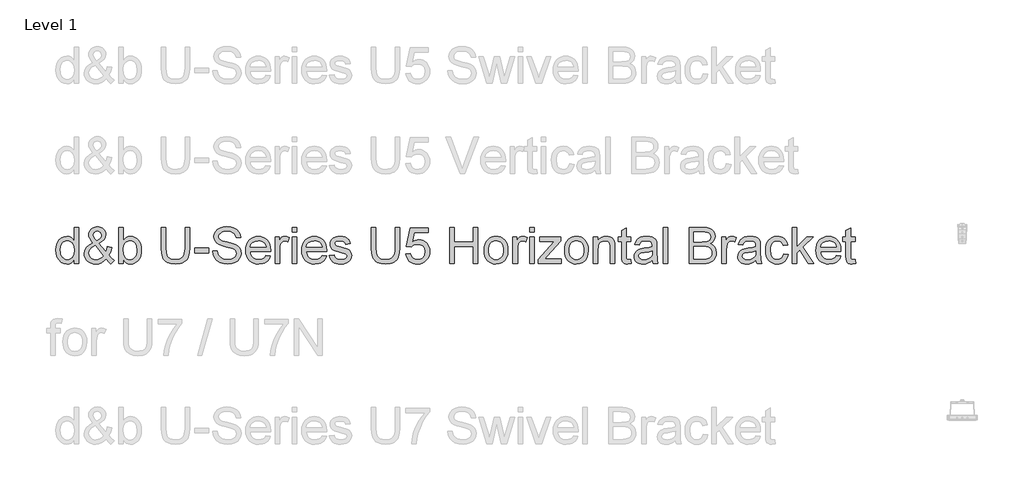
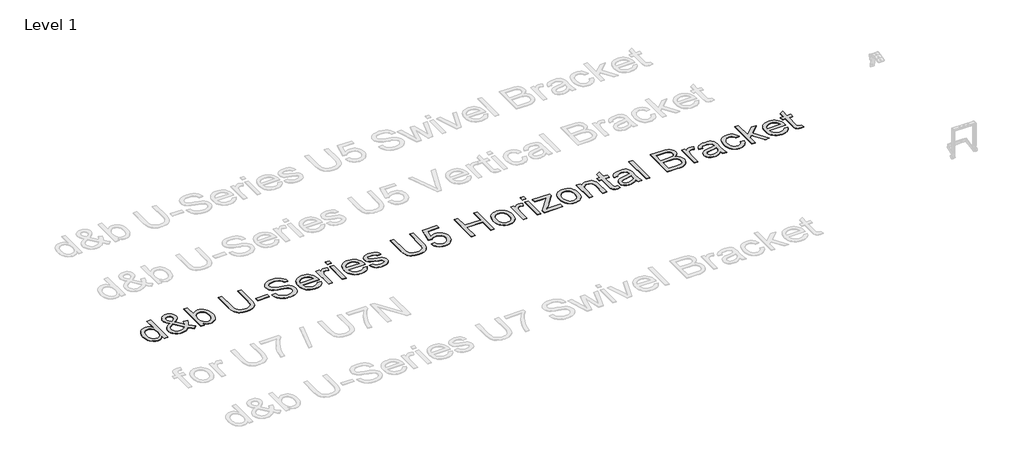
# One storey, part 6 of 29: 1 proxy.
"""IFC4 building model written with IfcOpenShell, lengths in millimetres."""

from ifc_helpers import new_model, si_unit, origin, origin_with_axes, place, context, project, spatial, polyline, outline, extrude, element, save

model = new_model("IFC4")

# Units and contexts
model_context = context("Model", 3, world=origin())
ifc_project = project(units=[si_unit("LENGTHUNIT", "METRE", prefix="MILLI")], contexts=[model_context])

# Site, building, storey
site = spatial("IfcSite", under=ifc_project)
building = spatial("IfcBuilding", under=site)
storey = spatial("IfcBuildingStorey", under=building, Name="Level 1", Elevation=0.0)

# Proxy
placement = place(None, origin())
element("IfcBuildingElementProxy", 1, Name="400mm Arial", ObjectType="400mm Arial", at=placement, inside=storey, context=model_context, shape_type="SweptSolid", body=[
    extrude(outline(polyline([(-20788.4119982, -5835.6363385), (-20788.4119982, -5788.2531375), (-20803.4399777, -5811.7301402), (-20821.6440051, -5828.4994278), (-20843.0240804, -5838.5610004), (-20867.5802036, -5841.9148579), (-20900.051921, -5837.0588156), (-20929.7767862, -5822.4906885), (-20954.9399147, -5799.2282837), (-20973.7264219, -5768.2894079), (-20985.4250694, -5730.9248599), (-20989.3246185, -5688.3854386), (-20985.7316377, -5646.3733147), (-20974.9526952, -5608.4324183), (-20957.0000539, -5576.7209903), (-20931.8859763, -5553.3972718), (-20901.5111863, -5539.049874), (-20867.7764073, -5534.2674081), (-20843.20189, -5537.6887106), (-20821.4723268, -5547.9526183), (-20803.0537016, -5563.6857049), (-20788.4119982, -5583.5145445), (-20788.4119982, -5433.8110979), (-20738.1838431, -5433.8110979), (-20738.1838431, -5835.6363385), (-20788.4119982, -5835.6363385)]), holes=[polyline([(-20939.0964634, -5688.1892348), (-20937.6801177, -5712.5460886), (-20933.4310807, -5733.6226612), (-20926.3493523, -5751.4189528), (-20916.4349325, -5765.9349632), (-20891.7377879, -5785.2487679), (-20877.8625053, -5790.0772191), (-20862.9694159, -5791.6867028), (-20848.0058157, -5790.1507955), (-20834.2133066, -5785.5430735), (-20810.1415614, -5767.1121855), (-20800.6348775, -5753.2031804), (-20793.844389, -5736.0506824), (-20788.4119982, -5692.0152076), (-20793.9424909, -5643.8717172), (-20800.8556067, -5625.336596), (-20810.5339688, -5610.4925575), (-20822.235682, -5599.1188724), (-20835.2188507, -5590.9948117), (-20849.4834751, -5586.1203753), (-20865.0295551, -5584.4955631), (-20880.2169501, -5586.0559959), (-20894.0922327, -5590.7372943), (-20906.6554028, -5598.5394583), (-20917.9064605, -5609.4624879), (-20927.1770868, -5623.7455063), (-20933.7989627, -5641.627637), (-20939.0964634, -5688.1892348)])]), origin_with_axes(), (0.0, 0.0, 1.0), 5.0),
    extrude(outline(polyline([(-20432.4003287, -5785.9967946), (-20457.9313392, -5810.4609473), (-20485.6696416, -5827.9353421), (-20515.664287, -5838.4199789), (-20547.9643262, -5841.9148579), (-20577.2722584, -5839.3274212), (-20603.3918801, -5831.5651111), (-20626.3231911, -5818.6279276), (-20646.0661915, -5800.5158707), (-20658.8991418, -5783.1457092), (-20668.0655348, -5764.7822662), (-20673.5653707, -5745.4255419), (-20675.3986493, -5725.0755362), (-20669.5002746, -5689.881492), (-20651.8051507, -5658.2681659), (-20622.3868538, -5630.2600833), (-20581.3189604, -5605.8817698), (-20603.2324646, -5577.5303307), (-20616.3903773, -5555.0650035), (-20622.975465, -5535.8860888), (-20625.1704942, -5517.3938872), (-20623.4414488, -5499.8397847), (-20618.2543127, -5483.4751673), (-20609.6090858, -5468.300035), (-20597.5057682, -5454.3143878), (-20582.784357, -5442.5973462), (-20566.2848495, -5434.2280308), (-20548.0072457, -5429.2064416), (-20527.9515456, -5427.5325785), (-20508.8032878, -5429.1328652), (-20491.4821772, -5433.9337252), (-20475.9882138, -5441.9351586), (-20462.3213977, -5453.1371654), (-20451.1623105, -5466.5832523), (-20443.1915339, -5481.3169262), (-20438.409068, -5497.3381871), (-20436.8149127, -5514.647035), (-20441.5360649, -5542.6305921), (-20455.6995218, -5568.5049591), (-20479.3052831, -5592.270136), (-20512.353349, -5613.9261227), (-20439.6598668, -5704.4741445), (-20427.2745063, -5678.5997775), (-20417.9793545, -5648.8503868), (-20367.7511994, -5659.7396939), (-20383.2022432, -5706.2645035), (-20403.2640747, -5742.4395664), (-20374.7164319, -5775.7451497), (-20342.6371219, -5803.2627229), (-20380.3082382, -5841.9148579), (-20405.9373505, -5818.4685121), (-20432.4003287, -5785.9967946)]), holes=[polyline([(-20537.7617322, -5582.2392202), (-20511.4949577, -5565.5741659), (-20496.4608468, -5551.091878), (-20489.3975125, -5537.0019976), (-20487.0430678, -5521.5141656), (-20490.1455392, -5503.9661944), (-20499.4529537, -5489.9744158), (-20513.4202068, -5480.8141542), (-20530.5021941, -5477.7607336), (-20547.9520634, -5480.7896287), (-20562.2381476, -5489.876314), (-20571.7662912, -5503.3285323), (-20574.9423391, -5519.4540264), (-20570.6258571, -5537.8481261), (-20557.578309, -5558.3023651), (-20537.7617322, -5582.2392202)]), polyline([(-20466.0492686, -5749.7972063), (-20555.7143735, -5637.8629779), (-20589.9641873, -5659.7151684), (-20610.8966728, -5679.9486782), (-20621.6020389, -5699.2747456), (-20625.1704942, -5718.4046094), (-20620.2899264, -5742.0962099), (-20605.648223, -5766.6707271), (-20594.8692805, -5777.6152165), (-20582.0547244, -5785.4327089), (-20567.2045545, -5790.1232043), (-20550.3187709, -5791.6867028), (-20527.5959264, -5788.7681723), (-20504.1618433, -5780.0125808), (-20482.7388484, -5766.6216762), (-20466.0492686, -5749.7972063)])]), origin_with_axes(), (0.0, 0.0, 1.0), 5.0),
    extrude(outline(polyline([(-20242.1808118, -5835.6363385), (-20292.4089668, -5835.6363385), (-20292.4089668, -5433.8110979), (-20242.1808118, -5433.8110979), (-20242.1808118, -5582.8278314), (-20225.6629102, -5561.5826462), (-20207.011293, -5546.4075139), (-20186.2259603, -5537.3024345), (-20163.306912, -5534.2674081), (-20137.432545, -5537.0019976), (-20112.9806551, -5545.2057661), (-20091.3491937, -5558.3636787), (-20073.9361126, -5575.9607008), (-20060.2876906, -5597.8251541), (-20049.9502065, -5623.7853602), (-20043.4386952, -5652.7621987), (-20041.2681915, -5683.676549), (-20043.5153373, -5719.3488398), (-20050.2567749, -5750.729174), (-20061.4925041, -5777.8175516), (-20077.2225251, -5800.6139726), (-20096.1040685, -5818.6831099), (-20116.7943651, -5831.5896366), (-20139.2934148, -5839.3335526), (-20163.6012176, -5841.9148579), (-20187.274424, -5838.5855258), (-20208.2620918, -5828.5975297), (-20226.5642211, -5811.9508694), (-20242.1808118, -5788.645545), (-20242.1808118, -5835.6363385)]), holes=[polyline([(-20242.1808118, -5686.0309938), (-20238.7472465, -5727.9204903), (-20228.4465506, -5756.2719294), (-20216.2757879, -5771.7658928), (-20202.1307252, -5782.8330095), (-20186.0113625, -5789.4732795), (-20167.9176997, -5791.6867028), (-20152.8958515, -5790.0557593), (-20138.9285984, -5785.1629288), (-20126.0159404, -5777.0082112), (-20114.1578774, -5765.5916066), (-20104.2434577, -5750.9437719), (-20097.1617293, -5733.0953637), (-20092.9126922, -5712.0463822), (-20091.4963465, -5687.7968274), (-20096.9287373, -5641.8361035), (-20103.7192258, -5624.0428776), (-20113.2259097, -5609.7077425), (-20124.6578427, -5598.677414), (-20137.2240785, -5590.798608), (-20150.9246172, -5586.0713243), (-20165.7594586, -5584.4955631), (-20180.7813068, -5586.1265066), (-20194.7485599, -5591.0193372), (-20207.6612179, -5599.1740547), (-20219.5192809, -5610.5906593), (-20229.4337006, -5625.0913413), (-20236.515429, -5642.498291), (-20240.7644661, -5662.8115085), (-20242.1808118, -5686.0309938)])]), origin_with_axes(), (0.0, 0.0, 1.0), 5.0),
    extrude(outline(polyline([(-19557.8221989, -5433.8110979), (-19507.5940438, -5433.8110979), (-19507.5940438, -5665.6258058), (-19511.0030836, -5719.9129256), (-19521.2302031, -5761.7165829), (-19529.4155775, -5778.6698116), (-19540.3355414, -5793.9675712), (-19570.3792376, -5819.5966835), (-19589.5213641, -5829.3608848), (-19611.4348683, -5836.3353143), (-19663.5760097, -5841.9148579), (-19714.576717, -5837.0588156), (-19755.3503048, -5822.4906885), (-19771.9049946, -5811.6902863), (-19785.9090359, -5798.7132489), (-19797.3624287, -5783.5595764), (-19806.2651729, -5766.2292688), (-19817.706303, -5722.6597778), (-19821.520013, -5665.6258058), (-19821.520013, -5433.8110979), (-19771.2918579, -5433.8110979), (-19771.2918579, -5663.8599722), (-19768.8147858, -5708.999093), (-19761.3835695, -5740.4284782), (-19747.9190885, -5762.1948295), (-19727.3422222, -5778.3448491), (-19700.5113621, -5788.3512394), (-19668.2848993, -5791.6867028), (-19640.6017791, -5790.0373652), (-19617.1983529, -5785.0893524), (-19598.0746205, -5776.8426643), (-19583.230582, -5765.297301), (-19572.1144144, -5749.0614423), (-19564.1742947, -5726.7432679), (-19559.4102228, -5698.3427779), (-19557.8221989, -5663.8599722), (-19557.8221989, -5433.8110979)])), origin_with_axes(), (0.0, 0.0, 1.0), 5.0),
    extrude(outline(polyline([(-19451.0873693, -5716.3444702), (-19451.0873693, -5666.1163151), (-19294.1243847, -5666.1163151), (-19294.1243847, -5716.3444702), (-19451.0873693, -5716.3444702)])), origin_with_axes(), (0.0, 0.0, 1.0), 5.0),
    extrude(outline(polyline([(-19250.174749, -5697.5089121), (-19199.946594, -5697.5089121), (-19194.1831094, -5725.3821046), (-19183.7597862, -5747.7861181), (-19167.499402, -5765.5670812), (-19144.2247344, -5779.5711224), (-19115.7751935, -5788.6578077), (-19083.9901891, -5791.6867028), (-19056.006632, -5789.3935717), (-19031.5056911, -5782.5141784), (-19011.6523261, -5771.6248713), (-18997.6114966, -5757.301999), (-18989.2605753, -5740.8576738), (-18986.4769349, -5723.6040082), (-18988.5615995, -5706.7918011), (-18994.8155934, -5692.2604623), (-19007.519785, -5679.862839), (-19028.9550426, -5669.4517786), (-19102.0899832, -5650.2728639), (-19150.0985836, -5637.580935), (-19180.8167302, -5625.5021429), (-19205.8204431, -5608.6040966), (-19223.5400926, -5588.1253322), (-19234.0983058, -5564.5073081), (-19237.6177103, -5538.1914827), (-19233.26444, -5508.7731858), (-19220.2046292, -5481.3414517), (-19198.7816343, -5458.0913096), (-19169.338812, -5441.2177887), (-19133.997615, -5430.9538811), (-19094.8794961, -5427.5325785), (-19052.4994903, -5431.1132966), (-19015.4169852, -5441.8554509), (-18984.956356, -5459.5383121), (-18962.4419779, -5483.9411511), (-18948.1926819, -5513.543389), (-18942.5272992, -5546.8244468), (-18992.7554543, -5546.8244468), (-19001.9770296, -5516.854327), (-19010.3402136, -5504.996264), (-19021.2049952, -5495.2228656), (-19051.2486915, -5482.1262666), (-19092.9174588, -5477.7607336), (-19135.5672448, -5482.0772157), (-19151.8705486, -5487.4728183), (-19164.8261262, -5495.0266619), (-19181.7486979, -5514.0829493), (-19187.3895552, -5536.7199547), (-19183.3919042, -5556.0214967), (-19171.3989511, -5571.5461169), (-19143.047512, -5585.4275309), (-19089.3857917, -5599.6032504), (-19034.0072887, -5613.0677314), (-19000.5055016, -5624.8154298), (-18971.8720197, -5643.0378513), (-18951.8960273, -5665.5277039), (-18940.1605917, -5692.0397331), (-18936.2487798, -5722.328684), (-18940.7492029, -5753.2920853), (-18954.2504721, -5782.4160765), (-18976.2007645, -5807.4811031), (-19006.048257, -5826.2676104), (-19041.941277, -5838.003046), (-19082.0281518, -5841.9148579), (-19131.2385, -5837.6964777), (-19171.7423077, -5825.041337), (-19204.0055586, -5803.9003851), (-19228.4942368, -5774.2245708), (-19244.2150607, -5738.0740334), (-19250.174749, -5697.5089121)])), origin_with_axes(), (0.0, 0.0, 1.0), 5.0),
    extrude(outline(polyline([(-18660.5825381, -5747.7370671), (-18611.3354017, -5754.0155865), (-18618.8861796, -5773.7401928), (-18629.0795766, -5791.1226171), (-18641.9155925, -5806.1628593), (-18657.3942275, -5818.8609195), (-18675.3560659, -5828.9470176), (-18695.6416922, -5836.1513733), (-18743.1843087, -5841.9148579), (-18774.3500451, -5839.4285887), (-18802.1190044, -5831.9697813), (-18826.4911866, -5819.5384355), (-18847.4665916, -5802.1345515), (-18864.3339811, -5780.2425071), (-18876.3821165, -5754.3466803), (-18883.6109977, -5724.4470712), (-18886.0206247, -5690.5436796), (-18883.5864722, -5655.4906568), (-18876.2840146, -5624.5947006), (-18864.1132519, -5597.8558109), (-18847.0741842, -5575.2739878), (-18826.1539614, -5557.3336092), (-18802.3397336, -5544.519053), (-18775.6315007, -5536.8303193), (-18746.0292628, -5534.2674081), (-18717.3804525, -5536.8241879), (-18691.472363, -5544.4945275), (-18668.3049943, -5557.2784269), (-18647.8783465, -5575.1758859), (-18631.2040951, -5597.7086581), (-18619.2939155, -5624.3984969), (-18612.1478077, -5655.2454022), (-18609.7657718, -5690.249374), (-18610.0600774, -5703.7874314), (-18835.7924697, -5703.7874314), (-18832.8831362, -5723.8308688), (-18827.0981918, -5741.3849713), (-18818.4376365, -5756.449739), (-18806.9014703, -5769.0251719), (-18793.1273553, -5778.9395917), (-18777.7529536, -5786.0213201), (-18742.2032901, -5791.6867028), (-18715.4705318, -5789.0624779), (-18692.9561537, -5781.1898032), (-18674.6601558, -5767.5781694), (-18660.5825381, -5747.7370671)]), holes=[polyline([(-18835.7924697, -5653.5592764), (-18659.9939269, -5653.5592764), (-18666.7874811, -5627.0227218), (-18680.1048093, -5608.0400108), (-18693.8022823, -5597.739315), (-18709.3882161, -5590.3816751), (-18726.8626109, -5585.9670911), (-18746.2254666, -5584.4955631), (-18780.0828729, -5589.1921899), (-18808.0786927, -5603.2820704), (-18827.5396502, -5625.2446255), (-18835.7924697, -5653.5592764)])]), origin_with_axes(), (0.0, 0.0, 1.0), 5.0),
    extrude(outline(polyline([(-18559.5376168, -5835.6363385), (-18559.5376168, -5540.5459274), (-18515.5879811, -5540.5459274), (-18515.5879811, -5584.2012575), (-18499.3521223, -5558.8909763), (-18484.3915879, -5543.9794927), (-18469.3820025, -5536.6954292), (-18452.998991, -5534.2674081), (-18427.9830153, -5538.1424317), (-18402.5746321, -5549.7675028), (-18419.3500511, -5594.796259), (-18437.0083869, -5587.0707371), (-18454.6667227, -5584.4955631), (-18469.6640453, -5586.9726352), (-18483.0672127, -5594.4038515), (-18493.8952061, -5606.2251263), (-18501.1670069, -5621.8723738), (-18507.273848, -5649.9295073), (-18509.3094617, -5680.5372893), (-18509.3094617, -5835.6363385), (-18559.5376168, -5835.6363385)])), origin_with_axes(), (0.0, 0.0, 1.0), 5.0),
    extrude(outline(polyline([(-18371.1820352, -5484.039253), (-18371.1820352, -5433.8110979), (-18320.9538802, -5433.8110979), (-18320.9538802, -5484.039253), (-18371.1820352, -5484.039253)])), origin_with_axes(), (0.0, 0.0, 1.0), 5.0),
    extrude(outline(polyline([(-18371.1820352, -5835.6363385), (-18371.1820352, -5540.5459274), (-18320.9538802, -5540.5459274), (-18320.9538802, -5835.6363385), (-18371.1820352, -5835.6363385)])), origin_with_axes(), (0.0, 0.0, 1.0), 5.0),
    extrude(outline(polyline([(-18039.009119, -5747.7370671), (-17989.7619826, -5754.0155865), (-17997.3127606, -5773.7401928), (-18007.5061575, -5791.1226171), (-18020.3421735, -5806.1628593), (-18035.8208084, -5818.8609195), (-18053.7826468, -5828.9470176), (-18074.0682732, -5836.1513733), (-18121.6108897, -5841.9148579), (-18152.7766261, -5839.4285887), (-18180.5455853, -5831.9697813), (-18204.9177675, -5819.5384355), (-18225.8931726, -5802.1345515), (-18242.7605621, -5780.2425071), (-18254.8086974, -5754.3466803), (-18262.0375786, -5724.4470712), (-18264.4472057, -5690.5436796), (-18262.0130532, -5655.4906568), (-18254.7105956, -5624.5947006), (-18242.5398329, -5597.8558109), (-18225.5007651, -5575.2739878), (-18204.5805423, -5557.3336092), (-18180.7663145, -5544.519053), (-18154.0580817, -5536.8303193), (-18124.4558438, -5534.2674081), (-18095.8070334, -5536.8241879), (-18069.8989439, -5544.4945275), (-18046.7315753, -5557.2784269), (-18026.3049275, -5575.1758859), (-18009.630676, -5597.7086581), (-17997.7204965, -5624.3984969), (-17990.5743887, -5655.2454022), (-17988.1923528, -5690.249374), (-17988.4866584, -5703.7874314), (-18214.2190506, -5703.7874314), (-18211.3097172, -5723.8308688), (-18205.5247728, -5741.3849713), (-18196.8642175, -5756.449739), (-18185.3280513, -5769.0251719), (-18171.5539362, -5778.9395917), (-18156.1795345, -5786.0213201), (-18120.629871, -5791.6867028), (-18093.8971127, -5789.0624779), (-18071.3827346, -5781.1898032), (-18053.0867367, -5767.5781694), (-18039.009119, -5747.7370671)]), holes=[polyline([(-18214.2190506, -5653.5592764), (-18038.4205079, -5653.5592764), (-18045.214062, -5627.0227218), (-18058.5313903, -5608.0400108), (-18072.2288632, -5597.739315), (-18087.8147971, -5590.3816751), (-18105.2891918, -5585.9670911), (-18124.6520475, -5584.4955631), (-18158.5094538, -5589.1921899), (-18186.5052736, -5603.2820704), (-18205.9662312, -5625.2446255), (-18214.2190506, -5653.5592764)])]), origin_with_axes(), (0.0, 0.0, 1.0), 5.0),
    extrude(outline(polyline([(-17956.7997559, -5747.7370671), (-17906.5716008, -5741.4585477), (-17898.6498752, -5762.9428563), (-17883.3214587, -5778.7372566), (-17860.4882495, -5788.4493413), (-17830.0521458, -5791.6867028), (-17799.983924, -5788.7191214), (-17778.8429721, -5779.8163771), (-17766.3349842, -5766.9159818), (-17762.1656549, -5751.9554473), (-17766.3595097, -5739.1531539), (-17778.9410739, -5729.3920183), (-17830.640757, -5715.069146), (-17906.2772952, -5690.4946287), (-17925.4194217, -5678.1460564), (-17939.2885729, -5661.7998331), (-17947.7130706, -5642.498291), (-17950.5212365, -5621.2837627), (-17948.2648936, -5601.8228051), (-17941.4958649, -5583.857901), (-17930.827287, -5568.1002889), (-17916.8722966, -5555.2612073), (-17884.9401395, -5540.3987746), (-17864.0567049, -5535.8002497), (-17841.7262678, -5534.2674081), (-17809.0338211, -5536.7322174), (-17780.6088056, -5544.1266455), (-17757.751071, -5555.7271911), (-17741.7604669, -5570.8103529), (-17731.1654655, -5590.4920397), (-17724.4945386, -5615.8881601), (-17774.7226937, -5622.1666794), (-17781.0625268, -5606.3600164), (-17793.6073028, -5594.4529025), (-17812.4796492, -5586.984898), (-17837.8021932, -5584.4955631), (-17866.6441416, -5586.8745334), (-17885.8721072, -5594.0114441), (-17896.6878378, -5604.3121399), (-17900.2930814, -5616.1824657), (-17894.3088676, -5630.7996436), (-17875.5714113, -5641.8851544), (-17832.3084887, -5652.5782577), (-17758.5849369, -5676.2208073), (-17739.1117166, -5687.5270473), (-17724.3473858, -5703.0026165), (-17715.0399714, -5722.696566), (-17711.9374999, -5746.6579466), (-17715.5795316, -5771.4286676), (-17726.5056269, -5794.7278606), (-17744.2988527, -5814.7283785), (-17768.5422762, -5829.6030738), (-17797.825683, -5838.8369119), (-17830.7388588, -5841.9148579), (-17857.7720541, -5840.4310672), (-17881.3839468, -5835.979695), (-17901.574537, -5828.5607415), (-17918.3438246, -5818.1742065), (-17932.0412976, -5804.869141), (-17943.0164438, -5788.6945959), (-17951.2692632, -5769.6505713), (-17956.7997559, -5747.7370671)])), origin_with_axes(), (0.0, 0.0, 1.0), 5.0),
    extrude(outline(polyline([(-17228.4915073, -5433.8110979), (-17178.2633522, -5433.8110979), (-17178.2633522, -5665.6258058), (-17181.672392, -5719.9129256), (-17191.8995115, -5761.7165829), (-17200.0848859, -5778.6698116), (-17211.0048498, -5793.9675712), (-17241.048546, -5819.5966835), (-17260.1906725, -5829.3608848), (-17282.1041767, -5836.3353143), (-17334.2453182, -5841.9148579), (-17385.2460254, -5837.0588156), (-17426.0196132, -5822.4906885), (-17442.574303, -5811.6902863), (-17456.5783443, -5798.7132489), (-17468.0317371, -5783.5595764), (-17476.9344814, -5766.2292688), (-17488.3756114, -5722.6597778), (-17492.1893214, -5665.6258058), (-17492.1893214, -5433.8110979), (-17441.9611663, -5433.8110979), (-17441.9611663, -5663.8599722), (-17439.4840942, -5708.999093), (-17432.0528779, -5740.4284782), (-17418.5883969, -5762.1948295), (-17398.0115307, -5778.3448491), (-17371.1806705, -5788.3512394), (-17338.9542077, -5791.6867028), (-17311.2710876, -5790.0373652), (-17287.8676613, -5785.0893524), (-17268.7439289, -5776.8426643), (-17253.8998904, -5765.297301), (-17242.7837228, -5749.0614423), (-17234.8436031, -5726.7432679), (-17230.0795312, -5698.3427779), (-17228.4915073, -5663.8599722), (-17228.4915073, -5433.8110979)])), origin_with_axes(), (0.0, 0.0, 1.0), 5.0),
    extrude(outline(polyline([(-17109.199639, -5728.901509), (-17058.9714839, -5722.6229896), (-17049.7499086, -5752.7770505), (-17033.6612026, -5774.3717236), (-17010.7789425, -5787.357958), (-16981.1767046, -5791.6867028), (-16962.0468409, -5790.1814523), (-16945.1733201, -5785.6657008), (-16930.5561421, -5778.1394483), (-16918.1953071, -5767.6026949), (-16908.3667264, -5754.5766066), (-16901.3463117, -5739.5823496), (-16895.7299799, -5703.6893296), (-16900.9906924, -5669.8932369), (-16907.5665831, -5655.9750348), (-16916.77283, -5644.0433954), (-16928.6400901, -5634.4723322), (-16943.19902, -5627.6358584), (-16980.3918897, -5622.1666794), (-17004.7579405, -5624.3494459), (-17024.4886782, -5630.8977455), (-17040.2462903, -5640.9286612), (-17052.6929645, -5653.5592764), (-17102.9211196, -5647.280757), (-17058.9714839, -5440.0896173), (-16864.337383, -5440.0896173), (-16864.337383, -5490.3177724), (-17018.3573116, -5490.3177724), (-17039.939722, -5600.9766765), (-17022.2139412, -5588.272485), (-17004.0589647, -5579.1980624), (-16985.4747926, -5573.7534089), (-16966.4614248, -5571.9385244), (-16941.9972722, -5574.1887359), (-16919.5196823, -5580.9393705), (-16899.0286551, -5592.1904282), (-16880.5241908, -5607.941909), (-16865.2019057, -5627.2311882), (-16854.2574163, -5649.0956415), (-16847.6907227, -5673.5352687), (-16845.5018248, -5700.5500699), (-16847.4699935, -5726.5715897), (-16853.3744995, -5750.778225), (-16863.2153429, -5773.1699757), (-16876.9925236, -5793.746842), (-16897.8636955, -5814.8203489), (-16922.2174836, -5829.8728539), (-16950.0538879, -5838.9043569), (-16981.3729084, -5841.9148579), (-17007.2932606, -5839.9804117), (-17030.7058839, -5834.1770733), (-17051.6107783, -5824.5048425), (-17070.0079438, -5810.9637194), (-17085.3149004, -5794.2281543), (-17096.9491685, -5774.9725975), (-17104.910748, -5753.1970491), (-17109.199639, -5728.901509)])), origin_with_axes(), (0.0, 0.0, 1.0), 5.0),
    extrude(outline(polyline([(-16625.7536464, -5835.6363385), (-16625.7536464, -5433.8110979), (-16575.5254913, -5433.8110979), (-16575.5254913, -5597.0526019), (-16362.0558322, -5597.0526019), (-16362.0558322, -5433.8110979), (-16311.8276772, -5433.8110979), (-16311.8276772, -5835.6363385), (-16362.0558322, -5835.6363385), (-16362.0558322, -5647.280757), (-16575.5254913, -5647.280757), (-16575.5254913, -5835.6363385), (-16625.7536464, -5835.6363385)])), origin_with_axes(), (0.0, 0.0, 1.0), 5.0),
    extrude(outline(polyline([(-16242.7639639, -5688.091133), (-16240.0477685, -5649.874325), (-16231.8991823, -5616.9427551), (-16218.3182054, -5589.2964232), (-16199.3048376, -5566.9353292), (-16180.1627111, -5552.6431137), (-16159.0340218, -5542.4343884), (-16135.9187698, -5536.3091531), (-16110.816955, -5534.2674081), (-16083.1062437, -5536.7536772), (-16058.0504142, -5544.2124847), (-16035.6494663, -5556.6438304), (-16015.9034002, -5574.0477145), (-15999.7871032, -5595.8355256), (-15988.2754624, -5621.4186527), (-15981.3684779, -5650.7970957), (-15979.0661498, -5683.9708546), (-15983.1373772, -5734.7140445), (-15995.3510594, -5773.341654), (-16015.3515772, -5802.2694415), (-16042.7833114, -5823.9131656), (-16075.3653934, -5837.4144348), (-16110.816955, -5841.9148579), (-16138.9323365, -5839.4377858), (-16164.221158, -5832.0065695), (-16186.6834194, -5819.621209), (-16206.3191209, -5802.2817043), (-16222.2637397, -5780.282361), (-16233.6527532, -5753.9174846), (-16240.4861612, -5723.1870753), (-16242.7639639, -5688.091133)]), holes=[polyline([(-16192.5358089, -5687.9930311), (-16191.082675, -5712.3560162), (-16186.7232733, -5733.450983), (-16179.4576039, -5751.2779313), (-16169.2856668, -5765.8368613), (-16156.912569, -5777.146167), (-16143.0434178, -5785.2242424), (-16127.6782131, -5790.0710877), (-16110.816955, -5791.6867028), (-16094.041536, -5790.0618907), (-16078.737645, -5785.1874542), (-16064.905282, -5777.0633935), (-16052.544447, -5765.6897085), (-16042.3725098, -5750.9866914), (-16035.1068404, -5732.8746345), (-16030.7474387, -5711.3535378), (-16029.2943049, -5686.4234013), (-16030.7566358, -5662.8329683), (-16035.1436286, -5642.2898246), (-16042.4552832, -5624.79397), (-16052.6915998, -5610.3454047), (-16065.09842, -5599.036099), (-16078.921586, -5590.9580235), (-16094.1610977, -5586.1111782), (-16110.816955, -5584.4955631), (-16127.6782131, -5586.1050469), (-16143.0434178, -5590.9334981), (-16156.912569, -5598.9809167), (-16169.2856668, -5610.2473028), (-16179.4576039, -5624.7633132), (-16186.7232733, -5642.5596047), (-16191.082675, -5663.6361773), (-16192.5358089, -5687.9930311)])]), origin_with_axes(), (0.0, 0.0, 1.0), 5.0),
    extrude(outline(polyline([(-15922.5594753, -5835.6363385), (-15922.5594753, -5540.5459274), (-15878.6098396, -5540.5459274), (-15878.6098396, -5584.2012575), (-15862.3739809, -5558.8909763), (-15847.4134464, -5543.9794927), (-15832.403861, -5536.6954292), (-15816.0208495, -5534.2674081), (-15791.0048739, -5538.1424317), (-15765.5964907, -5549.7675028), (-15782.3719097, -5594.796259), (-15800.0302455, -5587.0707371), (-15817.6885812, -5584.4955631), (-15832.6859039, -5586.9726352), (-15846.0890713, -5594.4038515), (-15856.9170647, -5606.2251263), (-15864.1888654, -5621.8723738), (-15870.2957065, -5649.9295073), (-15872.3313203, -5680.5372893), (-15872.3313203, -5835.6363385), (-15922.5594753, -5835.6363385)])), origin_with_axes(), (0.0, 0.0, 1.0), 5.0),
    extrude(outline(polyline([(-15734.2038938, -5835.6363385), (-15734.2038938, -5540.5459274), (-15683.9757387, -5540.5459274), (-15683.9757387, -5835.6363385), (-15734.2038938, -5835.6363385)])), origin_with_axes(), (0.0, 0.0, 1.0), 5.0),
    extrude(outline(polyline([(-15734.2038938, -5484.039253), (-15734.2038938, -5433.8110979), (-15683.9757387, -5433.8110979), (-15683.9757387, -5484.039253), (-15734.2038938, -5484.039253)])), origin_with_axes(), (0.0, 0.0, 1.0), 5.0),
    extrude(outline(polyline([(-15640.026103, -5835.6363385), (-15640.026103, -5788.3512394), (-15466.6801069, -5590.7740825), (-15517.9873825, -5590.7740825), (-15627.4690643, -5590.7740825), (-15627.4690643, -5540.5459274), (-15395.163847, -5540.5459274), (-15395.163847, -5583.2202389), (-15548.8894701, -5758.5282723), (-15572.4339178, -5785.4081834), (-15514.3576135, -5785.4081834), (-15388.8853277, -5785.4081834), (-15388.8853277, -5835.6363385), (-15640.026103, -5835.6363385)])), origin_with_axes(), (0.0, 0.0, 1.0), 5.0),
    extrude(outline(polyline([(-15351.2142114, -5688.091133), (-15348.498016, -5649.874325), (-15340.3494298, -5616.9427551), (-15326.7684528, -5589.2964232), (-15307.755085, -5566.9353292), (-15288.6129585, -5552.6431137), (-15267.4842693, -5542.4343884), (-15244.3690172, -5536.3091531), (-15219.2672024, -5534.2674081), (-15191.5564911, -5536.7536772), (-15166.5006616, -5544.2124847), (-15144.0997138, -5556.6438304), (-15124.3536477, -5574.0477145), (-15108.2373506, -5595.8355256), (-15096.7257098, -5621.4186527), (-15089.8187254, -5650.7970957), (-15087.5163972, -5683.9708546), (-15091.5876246, -5734.7140445), (-15103.8013069, -5773.341654), (-15123.8018247, -5802.2694415), (-15151.2335588, -5823.9131656), (-15183.8156408, -5837.4144348), (-15219.2672024, -5841.9148579), (-15247.3825839, -5839.4377858), (-15272.6714054, -5832.0065695), (-15295.1336669, -5819.621209), (-15314.7693684, -5802.2817043), (-15330.7139872, -5780.282361), (-15342.1030006, -5753.9174846), (-15348.9364087, -5723.1870753), (-15351.2142114, -5688.091133)]), holes=[polyline([(-15300.9860563, -5687.9930311), (-15299.5329224, -5712.3560162), (-15295.1735208, -5733.450983), (-15287.9078513, -5751.2779313), (-15277.7359142, -5765.8368613), (-15265.3628164, -5777.146167), (-15251.4936652, -5785.2242424), (-15236.1284605, -5790.0710877), (-15219.2672024, -5791.6867028), (-15202.4917834, -5790.0618907), (-15187.1878924, -5785.1874542), (-15173.3555294, -5777.0633935), (-15160.9946944, -5765.6897085), (-15150.8227572, -5750.9866914), (-15143.5570878, -5732.8746345), (-15139.1976862, -5711.3535378), (-15137.7445523, -5686.4234013), (-15139.2068832, -5662.8329683), (-15143.593876, -5642.2898246), (-15150.9055307, -5624.79397), (-15161.1418472, -5610.3454047), (-15173.5486675, -5599.036099), (-15187.3718334, -5590.9580235), (-15202.6113451, -5586.1111782), (-15219.2672024, -5584.4955631), (-15236.1284605, -5586.1050469), (-15251.4936652, -5590.9334981), (-15265.3628164, -5598.9809167), (-15277.7359142, -5610.2473028), (-15287.9078513, -5624.7633132), (-15295.1735208, -5642.5596047), (-15299.5329224, -5663.6361773), (-15300.9860563, -5687.9930311)])]), origin_with_axes(), (0.0, 0.0, 1.0), 5.0),
    extrude(outline(polyline([(-15031.0097228, -5835.6363385), (-15031.0097228, -5540.5459274), (-14980.7815677, -5540.5459274), (-14980.7815677, -5581.7487109), (-14963.3316984, -5560.9756409), (-14942.3746874, -5546.1377338), (-14917.9105347, -5537.2349895), (-14889.9392403, -5534.2674081), (-14865.1807821, -5536.658641), (-14842.5069884, -5543.8323399), (-14823.5978539, -5554.8933253), (-14810.1333728, -5568.9464175), (-14800.9976366, -5585.9548284), (-14795.0747365, -5605.8817698), (-14792.4259861, -5654.4421932), (-14792.4259861, -5835.6363385), (-14842.6541412, -5835.6363385), (-14842.6541412, -5661.2112219), (-14844.1011437, -5635.238753), (-14848.4421513, -5616.7710768), (-14856.449716, -5603.5395878), (-14868.8963902, -5593.2756801), (-14884.8502061, -5586.6905924), (-14903.3791959, -5584.4955631), (-14932.7974928, -5589.4251819), (-14957.8747821, -5604.2140381), (-14967.8965008, -5616.2866989), (-14975.0548713, -5632.7862064), (-14979.3498936, -5653.7125605), (-14980.7815677, -5679.0657614), (-14980.7815677, -5835.6363385), (-15031.0097228, -5835.6363385)])), origin_with_axes(), (0.0, 0.0, 1.0), 5.0),
    extrude(outline(polyline([(-14616.6274434, -5793.746842), (-14610.348924, -5837.1078665), (-14647.9219384, -5841.9148579), (-14672.0304719, -5839.8301933), (-14690.0076387, -5833.5761993), (-14702.7118303, -5823.9376911), (-14711.0014379, -5811.6994834), (-14715.5631746, -5790.6811587), (-14717.0837535, -5754.7022996), (-14717.0837535, -5590.7740825), (-14754.7548698, -5590.7740825), (-14754.7548698, -5540.5459274), (-14717.0837535, -5540.5459274), (-14717.0837535, -5468.8334639), (-14666.8555985, -5439.3048024), (-14666.8555985, -5540.5459274), (-14616.6274434, -5540.5459274), (-14616.6274434, -5590.7740825), (-14666.8555985, -5590.7740825), (-14666.8555985, -5753.2307716), (-14664.2068481, -5779.1296641), (-14655.6229349, -5788.3021885), (-14638.5041594, -5791.6867028), (-14616.6274434, -5793.746842)])), origin_with_axes(), (0.0, 0.0, 1.0), 5.0),
    extrude(outline(polyline([(-14378.0437068, -5797.9652222), (-14402.0418756, -5818.5420885), (-14426.7512829, -5832.0065695), (-14452.7360145, -5839.4377858), (-14480.5601561, -5841.9148579), (-14502.9243157, -5840.4249358), (-14522.5354918, -5835.9551696), (-14539.3936842, -5828.5055592), (-14553.498893, -5818.0761046), (-14564.6365204, -5805.3289935), (-14572.5919686, -5790.9264134), (-14577.3652374, -5774.8683643), (-14578.9563271, -5757.1548462), (-14576.5528314, -5736.3327253), (-14569.3423443, -5717.4235907), (-14558.2200453, -5701.2367829), (-14544.0811139, -5688.5816423), (-14527.4651105, -5679.0167104), (-14508.9115952, -5672.1005289), (-14465.4524688, -5664.5466853), (-14414.0961423, -5656.6004342), (-14378.3380124, -5647.280757), (-14378.0437068, -5636.0971443), (-14381.5017975, -5613.6808681), (-14391.8760698, -5599.0146392), (-14415.077161, -5588.1253322), (-14447.4017256, -5584.4955631), (-14477.3227945, -5586.9113216), (-14498.2184919, -5594.1585969), (-14512.4677878, -5607.5617642), (-14522.4496526, -5628.4451988), (-14572.6778077, -5622.1666794), (-14563.9590044, -5594.6981571), (-14550.9482445, -5573.1157468), (-14532.4315174, -5556.6101079), (-14507.1948126, -5544.3719002), (-14476.3295132, -5536.7935311), (-14440.9270025, -5534.2674081), (-14406.9714943, -5536.4992255), (-14380.054795, -5543.1946778), (-14359.7599716, -5553.2623817), (-14345.6700912, -5565.610954), (-14336.3258885, -5580.8780568), (-14330.2680983, -5599.7013523), (-14327.8155517, -5643.650988), (-14327.8155517, -5706.1418762), (-14325.2649032, -5793.4034855), (-14315.2585129, -5835.6363385), (-14365.486668, -5835.6363385), (-14373.531021, -5818.1742065), (-14378.0437068, -5797.9652222)]), holes=[polyline([(-14378.0437068, -5697.5089121), (-14411.7907485, -5705.8720961), (-14459.0758476, -5712.9109049), (-14502.2897193, -5721.0533597), (-14513.5346456, -5726.6206406), (-14521.8610414, -5734.2971116), (-14527.0113894, -5743.4941615), (-14528.728172, -5753.6231791), (-14524.9880384, -5768.5591881), (-14513.7676375, -5780.7973958), (-14495.3122241, -5788.9643761), (-14469.8670528, -5791.6867028), (-14442.8890398, -5788.6823332), (-14419.0502865, -5779.6692243), (-14399.724219, -5766.3886843), (-14386.2842635, -5750.5820212), (-14380.3245751, -5734.2971116), (-14378.3380124, -5711.7336825), (-14378.0437068, -5697.5089121)])]), origin_with_axes(), (0.0, 0.0, 1.0), 5.0),
    extrude(outline(polyline([(-14258.7518385, -5835.6363385), (-14258.7518385, -5433.8110979), (-14208.5236834, -5433.8110979), (-14208.5236834, -5835.6363385), (-14258.7518385, -5835.6363385)])), origin_with_axes(), (0.0, 0.0, 1.0), 5.0),
    extrude(outline(polyline([(-13969.9399468, -5835.6363385), (-13969.9399468, -5433.8110979), (-13816.6067312, -5433.8110979), (-13774.4351918, -5436.7664166), (-13741.5097533, -5445.6323727), (-13716.2730484, -5460.6296954), (-13697.1677101, -5481.9791138), (-13685.1379689, -5507.0931914), (-13681.1280551, -5533.3844913), (-13684.5003067, -5557.5788638), (-13694.6170616, -5580.3262339), (-13711.5518961, -5600.2286498), (-13735.3783867, -5615.8881601), (-13706.916583, -5630.7505927), (-13685.8859956, -5653.3630726), (-13672.8997612, -5682.2295465), (-13668.5710163, -5715.8539609), (-13671.526335, -5743.8743062), (-13680.3922911, -5769.8590378), (-13693.6237802, -5791.9564829), (-13709.6756979, -5808.314969), (-13729.3328592, -5820.1607692), (-13753.380079, -5828.720157), (-13782.6021721, -5833.9072931), (-13817.7839536, -5835.6363385), (-13969.9399468, -5835.6363385)]), holes=[polyline([(-13919.7117917, -5785.4081834), (-13816.7048331, -5785.4081834), (-13779.4261242, -5783.4461461), (-13747.8863745, -5772.5077881), (-13736.3103544, -5763.0777463), (-13726.9906772, -5750.1896138), (-13720.8470479, -5734.4197389), (-13718.7991714, -5716.3444702), (-13721.2026671, -5695.350671), (-13728.4131542, -5677.2999278), (-13741.0069812, -5663.1855219), (-13759.5604965, -5654.0007348), (-13785.8395337, -5648.9607514), (-13821.6099263, -5647.280757), (-13919.7117917, -5647.280757), (-13919.7117917, -5785.4081834)]), polyline([(-13919.7117917, -5597.0526019), (-13827.9865476, -5597.0526019), (-13774.4229291, -5592.7361198), (-13755.6732101, -5585.2926408), (-13742.1964663, -5574.1458163), (-13734.0662742, -5559.4673247), (-13731.3562102, -5541.4288442), (-13733.8823332, -5523.9176613), (-13741.4607023, -5508.6628212), (-13753.747961, -5496.7557073), (-13770.4007526, -5489.2877028), (-13795.9562885, -5485.3513654), (-13834.95178, -5484.039253), (-13919.7117917, -5484.039253), (-13919.7117917, -5597.0526019)])]), origin_with_axes(), (0.0, 0.0, 1.0), 5.0),
    extrude(outline(polyline([(-13605.7858225, -5835.6363385), (-13605.7858225, -5540.5459274), (-13561.8361868, -5540.5459274), (-13561.8361868, -5584.2012575), (-13545.6003281, -5558.8909763), (-13530.6397936, -5543.9794927), (-13515.6302082, -5536.6954292), (-13499.2471967, -5534.2674081), (-13474.231221, -5538.1424317), (-13448.8228379, -5549.7675028), (-13465.5982569, -5594.796259), (-13483.2565926, -5587.0707371), (-13500.9149284, -5584.4955631), (-13515.9122511, -5586.9726352), (-13529.3154184, -5594.4038515), (-13540.1434118, -5606.2251263), (-13547.4152126, -5621.8723738), (-13553.5220537, -5649.9295073), (-13555.5576674, -5680.5372893), (-13555.5576674, -5835.6363385), (-13605.7858225, -5835.6363385)])), origin_with_axes(), (0.0, 0.0, 1.0), 5.0),
    extrude(outline(polyline([(-13229.0746594, -5797.9652222), (-13253.0728283, -5818.5420885), (-13277.7822356, -5832.0065695), (-13303.7669672, -5839.4377858), (-13331.5911088, -5841.9148579), (-13353.9552684, -5840.4249358), (-13373.5664444, -5835.9551696), (-13390.4246368, -5828.5055592), (-13404.5298457, -5818.0761046), (-13415.6674731, -5805.3289935), (-13423.6229212, -5790.9264134), (-13428.3961901, -5774.8683643), (-13429.9872797, -5757.1548462), (-13427.583784, -5736.3327253), (-13420.3732969, -5717.4235907), (-13409.2509979, -5701.2367829), (-13395.1120666, -5688.5816423), (-13378.4960632, -5679.0167104), (-13359.9425479, -5672.1005289), (-13316.4834215, -5664.5466853), (-13265.127095, -5656.6004342), (-13229.368965, -5647.280757), (-13229.0746594, -5636.0971443), (-13232.5327502, -5613.6808681), (-13242.9070225, -5599.0146392), (-13266.1081136, -5588.1253322), (-13298.4326783, -5584.4955631), (-13328.3537472, -5586.9113216), (-13349.2494445, -5594.1585969), (-13363.4987405, -5607.5617642), (-13373.4806053, -5628.4451988), (-13423.7087604, -5622.1666794), (-13414.9899571, -5594.6981571), (-13401.9791972, -5573.1157468), (-13383.4624701, -5556.6101079), (-13358.2257652, -5544.3719002), (-13327.3604658, -5536.7935311), (-13291.9579552, -5534.2674081), (-13258.002447, -5536.4992255), (-13231.0857477, -5543.1946778), (-13210.7909243, -5553.2623817), (-13196.7010439, -5565.610954), (-13187.3568412, -5580.8780568), (-13181.299051, -5599.7013523), (-13178.8465044, -5643.650988), (-13178.8465044, -5706.1418762), (-13176.2958559, -5793.4034855), (-13166.2894656, -5835.6363385), (-13216.5176207, -5835.6363385), (-13224.5619736, -5818.1742065), (-13229.0746594, -5797.9652222)]), holes=[polyline([(-13229.0746594, -5697.5089121), (-13262.8217011, -5705.8720961), (-13310.1068002, -5712.9109049), (-13353.3206719, -5721.0533597), (-13364.5655983, -5726.6206406), (-13372.8919941, -5734.2971116), (-13378.042342, -5743.4941615), (-13379.7591247, -5753.6231791), (-13376.018991, -5768.5591881), (-13364.7985902, -5780.7973958), (-13346.3431768, -5788.9643761), (-13320.8980054, -5791.6867028), (-13293.9199925, -5788.6823332), (-13270.0812392, -5779.6692243), (-13250.7551717, -5766.3886843), (-13237.3152161, -5750.5820212), (-13231.3555278, -5734.2971116), (-13229.368965, -5711.7336825), (-13229.0746594, -5697.5089121)])]), origin_with_axes(), (0.0, 0.0, 1.0), 5.0),
    extrude(outline(polyline([(-12921.4272096, -5728.901509), (-12871.1990545, -5735.1800284), (-12876.6621022, -5758.8808259), (-12885.2030958, -5779.8531653), (-12896.8220355, -5798.0970466), (-12911.5189212, -5813.6124697), (-12928.6744849, -5825.9947646), (-12947.6694586, -5834.8392609), (-12968.5038423, -5840.1459586), (-12991.1776359, -5841.9148579), (-13019.3481997, -5839.4469828), (-13044.6063643, -5832.0433577), (-13066.9521299, -5819.7039824), (-13086.3854962, -5802.4288571), (-13102.1155172, -5780.542944), (-13113.3512465, -5754.3712058), (-13120.0926841, -5723.9136423), (-13122.3398299, -5689.1702535), (-13118.5015944, -5644.4725911), (-13106.986888, -5605.734617), (-13087.6117696, -5574.4523847), (-13060.1922982, -5552.1219476), (-13027.389487, -5538.7310429), (-12991.864349, -5534.2674081), (-12969.5798971, -5535.8002497), (-12949.4230294, -5540.3987746), (-12931.393746, -5548.0629829), (-12915.4920468, -5558.7928744), (-12901.9877118, -5572.3431946), (-12891.1505214, -5588.4686887), (-12882.9804754, -5607.1693568), (-12877.4775739, -5628.4451988), (-12927.705729, -5634.7237182), (-12936.8169397, -5612.810214), (-12951.004922, -5597.1016528), (-12969.4848609, -5587.6470856), (-12991.4719415, -5584.4955631), (-13008.5386004, -5586.0467989), (-13023.9313962, -5590.7005061), (-13037.6503289, -5598.4566849), (-13049.6953986, -5609.3153351), (-13059.5025194, -5623.5278428), (-13066.5076058, -5641.3455941), (-13070.7106576, -5662.768589), (-13072.1116748, -5687.7968274), (-13066.6302331, -5734.87346), (-13059.7784309, -5752.810773), (-13050.1859079, -5767.0140837), (-13038.3799616, -5777.8083546), (-13024.8878894, -5785.518548), (-13009.7096914, -5790.1446641), (-12992.8453676, -5791.6867028), (-12966.8361105, -5787.8362046), (-12945.5112176, -5776.28471), (-12929.9988601, -5756.7379133), (-12921.4272096, -5728.901509)])), origin_with_axes(), (0.0, 0.0, 1.0), 5.0),
    extrude(outline(polyline([(-12827.2494188, -5835.6363385), (-12827.2494188, -5433.8110979), (-12777.0212638, -5433.8110979), (-12777.0212638, -5649.7333036), (-12664.4003223, -5540.5459274), (-12594.9442016, -5540.5459274), (-12709.0366711, -5651.1067297), (-12588.6656822, -5835.6363385), (-12647.3305977, -5835.6363385), (-12745.0400557, -5686.0309938), (-12777.0212638, -5717.1292851), (-12777.0212638, -5835.6363385), (-12827.2494188, -5835.6363385)])), origin_with_axes(), (0.0, 0.0, 1.0), 5.0),
    extrude(outline(polyline([(-12338.1135181, -5747.7370671), (-12288.8663816, -5754.0155865), (-12296.4171596, -5773.7401928), (-12306.6105565, -5791.1226171), (-12319.4465725, -5806.1628593), (-12334.9252074, -5818.8609195), (-12352.8870458, -5828.9470176), (-12373.1726722, -5836.1513733), (-12420.7152887, -5841.9148579), (-12451.8810251, -5839.4285887), (-12479.6499843, -5831.9697813), (-12504.0221665, -5819.5384355), (-12524.9975716, -5802.1345515), (-12541.8649611, -5780.2425071), (-12553.9130964, -5754.3466803), (-12561.1419776, -5724.4470712), (-12563.5516047, -5690.5436796), (-12561.1174522, -5655.4906568), (-12553.8149946, -5624.5947006), (-12541.6442319, -5597.8558109), (-12524.6051641, -5575.2739878), (-12503.6849414, -5557.3336092), (-12479.8707135, -5544.519053), (-12453.1624807, -5536.8303193), (-12423.5602428, -5534.2674081), (-12394.9114324, -5536.8241879), (-12369.0033429, -5544.4945275), (-12345.8359743, -5557.2784269), (-12325.4093265, -5575.1758859), (-12308.7350751, -5597.7086581), (-12296.8248955, -5624.3984969), (-12289.6787877, -5655.2454022), (-12287.2967518, -5690.249374), (-12287.5910574, -5703.7874314), (-12513.3234496, -5703.7874314), (-12510.4141162, -5723.8308688), (-12504.6291718, -5741.3849713), (-12495.9686165, -5756.449739), (-12484.4324503, -5769.0251719), (-12470.6583352, -5778.9395917), (-12455.2839335, -5786.0213201), (-12419.7342701, -5791.6867028), (-12393.0015117, -5789.0624779), (-12370.4871336, -5781.1898032), (-12352.1911357, -5767.5781694), (-12338.1135181, -5747.7370671)]), holes=[polyline([(-12513.3234496, -5653.5592764), (-12337.5249069, -5653.5592764), (-12344.318461, -5627.0227218), (-12357.6357893, -5608.0400108), (-12371.3332622, -5597.739315), (-12386.9191961, -5590.3816751), (-12404.3935909, -5585.9670911), (-12423.7564465, -5584.4955631), (-12457.6138528, -5589.1921899), (-12485.6096727, -5603.2820704), (-12505.0706302, -5625.2446255), (-12513.3234496, -5653.5592764)])]), origin_with_axes(), (0.0, 0.0, 1.0), 5.0),
    extrude(outline(polyline([(-12130.3337672, -5793.746842), (-12124.0552478, -5837.1078665), (-12161.6282622, -5841.9148579), (-12185.7367957, -5839.8301933), (-12203.7139625, -5833.5761993), (-12216.4181541, -5823.9376911), (-12224.7077617, -5811.6994834), (-12229.2694984, -5790.6811587), (-12230.7900773, -5754.7022996), (-12230.7900773, -5590.7740825), (-12268.4611936, -5590.7740825), (-12268.4611936, -5540.5459274), (-12230.7900773, -5540.5459274), (-12230.7900773, -5468.8334639), (-12180.5619223, -5439.3048024), (-12180.5619223, -5540.5459274), (-12130.3337672, -5540.5459274), (-12130.3337672, -5590.7740825), (-12180.5619223, -5590.7740825), (-12180.5619223, -5753.2307716), (-12177.9131719, -5779.1296641), (-12169.3292587, -5788.3021885), (-12152.2104832, -5791.6867028), (-12130.3337672, -5793.746842)])), origin_with_axes(), (0.0, 0.0, 1.0), 5.0),
])

save(model, "model.ifc")
